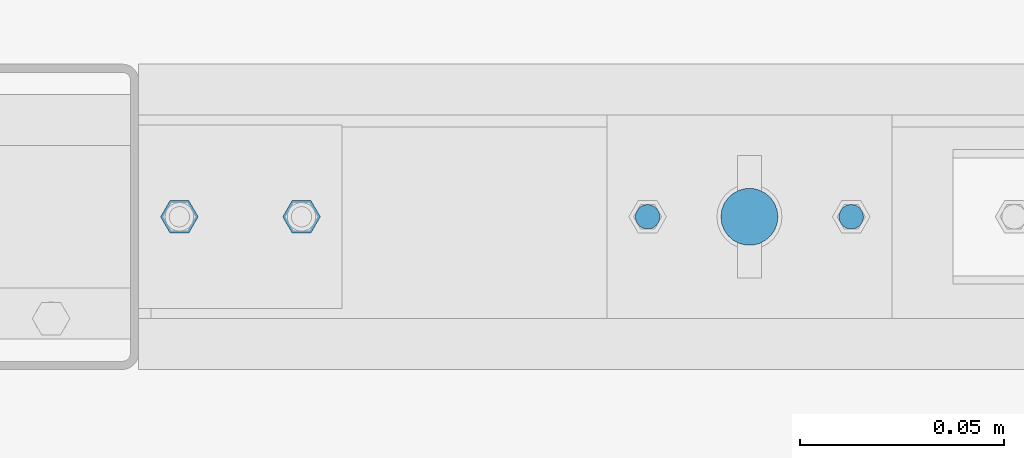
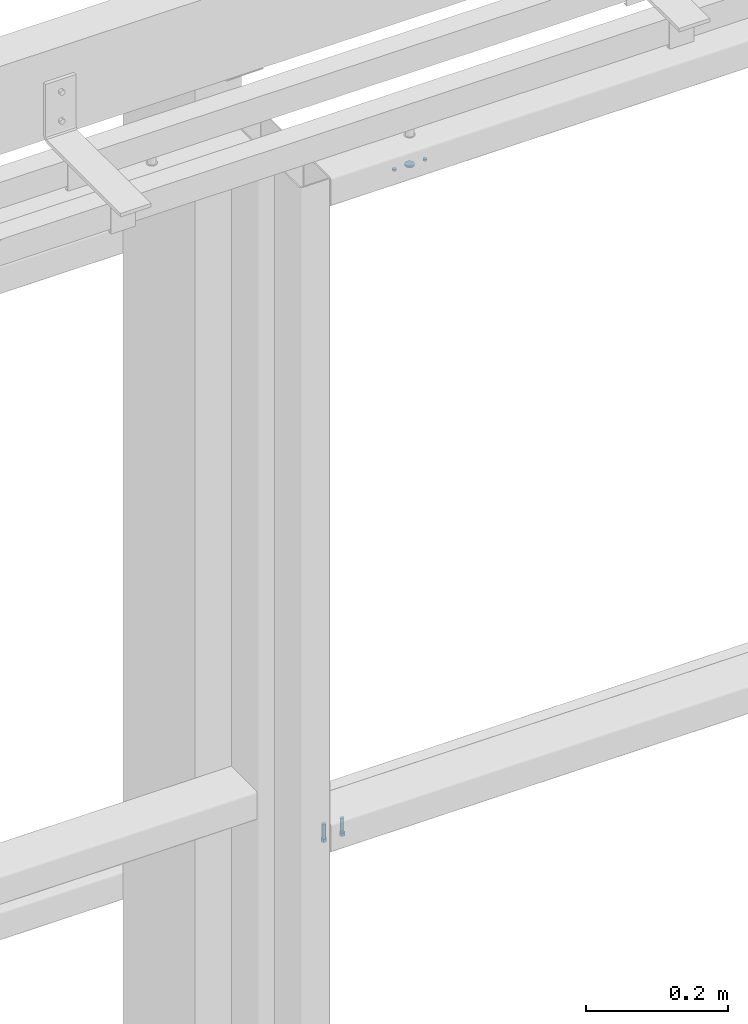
# One storey, part 37 of 91: 4 mechanical fasteners, 2 elements without a shape of their own.
"""IFC2X3 building model written with IfcOpenShell, lengths in millimetres."""

from ifc_helpers import new_model, si_unit, frame, origin_with_axes, origin_2d_with_axis, place, context, subcontext, project, spatial, polyline, circle, outline, extrude, source, transform, mapped, material, type_object, element, aggregate, save


model = new_model("IFC2X3")

# Units and contexts
model_context = context("Model", 3, precision=1e-05, world=origin_with_axes())
body_context = subcontext(model_context, "Body", "Model", "MODEL_VIEW")
ifc_project = project(units=[si_unit("LENGTHUNIT", "METRE", prefix="MILLI"), si_unit("AREAUNIT", "SQUARE_METRE"), si_unit("VOLUMEUNIT", "CUBIC_METRE"), si_unit("MASSUNIT", "GRAM", prefix="KILO"), si_unit("TIMEUNIT", "SECOND"), si_unit("PLANEANGLEUNIT", "RADIAN"), si_unit("SOLIDANGLEUNIT", "STERADIAN"), si_unit("THERMODYNAMICTEMPERATUREUNIT", "DEGREE_CELSIUS"), si_unit("LUMINOUSINTENSITYUNIT", "LUMEN")], contexts=[model_context])

# Site, building, storey
site_placement = place(None, origin_with_axes())
site = spatial("IfcSite", under=ifc_project, at=site_placement, Name="Undefined", CompositionType="ELEMENT")
building_placement = place(site_placement, origin_with_axes())
building = spatial("IfcBuilding", under=site, at=building_placement, Name="Undefined", CompositionType="ELEMENT")
storey_placement = place(building_placement, origin_with_axes())
storey = spatial("IfcBuildingStorey", under=building, at=storey_placement, Name="Undefined", CompositionType="ELEMENT", Elevation=0.0)

# Assembly, mechanical fasteners
assembly_1_placement = place(storey_placement, origin_with_axes())
assembly_1 = element("IfcElementAssembly", 1, at=assembly_1_placement, inside=storey, Name="ROD", AssemblyPlace="NOTDEFINED", PredefinedType="RIGID_FRAME")
ifc_material_1 = material(Name="8.8S")
discrete_accessory_type = type_object("IfcDiscreteAccessoryType", Name="Bolt assembly")
shared_shape_1 = source(origin_with_axes(), body_context, "Body", "SweptSolid", [
    extrude(circle(Radius=3.0, at=origin_2d_with_axis()), frame((0.0, -1.0, 0.0), z_axis=(0.0, 1.0, 0.0), x_axis=(1.0, 0.0, 0.0)), (0.0, 0.0, 1.0), 3.1),
])
mechanical_fastener_1_placement = place(assembly_1_placement, frame((-113558.34, 87590.15, 3324.0), z_axis=(0.0, 1.0, 0.0), x_axis=(-1.0, 0.0, 0.0)))
mechanical_fastener_1 = element("IfcMechanicalFastener", 2, at=mechanical_fastener_1_placement, type_object=discrete_accessory_type, material=ifc_material_1, Name="Bolt assembly", NominalDiameter=6.0, NominalLength=3.0, context=body_context, shape_type="MappedRepresentation", body=[
    mapped(shared_shape_1, transform((0.0, 0.0, 0.0))),
])
mechanical_fastener_2_placement = place(assembly_1_placement, frame((-113608.34, 87590.15, 3324.0), z_axis=(0.0, -1.0, 0.0), x_axis=(1.0, 0.0, 0.0)))
mechanical_fastener_2 = element("IfcMechanicalFastener", 3, at=mechanical_fastener_2_placement, type_object=discrete_accessory_type, material=ifc_material_1, Name="Bolt assembly", NominalDiameter=6.0, NominalLength=3.0, context=body_context, shape_type="MappedRepresentation", body=[
    mapped(shared_shape_1, transform((0.0, 0.0, 0.0))),
])
shared_shape_2 = source(origin_with_axes(), body_context, "Body", "SweptSolid", [
    extrude(circle(Radius=7.0, at=origin_2d_with_axis()), frame((0.0, -1.0, 0.0), z_axis=(0.0, 1.0, 0.0), x_axis=(1.0, 0.0, 0.0)), (0.0, 0.0, 1.0), 3.1),
])
mechanical_fastener_3_placement = place(assembly_1_placement, frame((-113583.34, 87590.15, 3324.0), z_axis=(0.0, -1.0, 0.0), x_axis=(1.0, 0.0, 0.0)))
mechanical_fastener_3 = element("IfcMechanicalFastener", 4, at=mechanical_fastener_3_placement, type_object=discrete_accessory_type, material=ifc_material_1, Name="Bolt assembly", NominalDiameter=12.0, NominalLength=3.0, context=body_context, shape_type="MappedRepresentation", body=[
    mapped(shared_shape_2, transform((0.0, 0.0, 0.0))),
])
aggregate(assembly_1, [mechanical_fastener_1, mechanical_fastener_2, mechanical_fastener_3])

# Assembly, mechanical fastener
assembly_2_placement = place(storey_placement, origin_with_axes())
assembly_2 = element("IfcElementAssembly", 5, at=assembly_2_placement, inside=storey, Name="SLIDING DOOR", AssemblyPlace="NOTDEFINED", PredefinedType="RIGID_FRAME")
ifc_material_2 = material(Name="TEK_11TPIM")
shared_shape_3 = source(origin_with_axes(), body_context, "Body", "SweptSolid", [
    extrude(circle(Radius=3.0, at=origin_2d_with_axis()), frame((0.0, 0.103333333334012, 0.0), z_axis=(0.0, 1.0, 0.0), x_axis=(1.0, 0.0, 0.0)), (0.0, 0.0, 1.0), 2.0),
    extrude(circle(Radius=3.0, at=origin_2d_with_axis()), frame((0.0, 2.4, 0.0), z_axis=(0.0, 1.0, 0.0), x_axis=(1.0, 0.0, 0.0)), (0.0, 0.0, 1.0), 1.7),
    extrude(outline(polyline([(4.61880215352, 0.0), (2.30940107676, 4.00000000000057), (-2.30940107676, 4.00000000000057), (-4.61880215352, 0.0), (-2.30940107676, -4.00000000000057), (2.30940107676, -4.00000000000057), (4.61880215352, 0.0)])), frame((0.0, -4.99666666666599, 0.0), z_axis=(0.0, 1.0, 0.0), x_axis=(1.0, 0.0, 0.0)), (0.0, 0.0, 1.0), 5.0),
    extrude(circle(Radius=3.0, at=origin_2d_with_axis()), frame((0.0, 0.0033333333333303, 0.0), z_axis=(0.0, 1.0, 0.0), x_axis=(1.0, 0.0, 0.0)), (0.0, 0.0, 1.0), 25.0),
    extrude(circle(Radius=3.0, at=origin_2d_with_axis()), frame((0.0, 4.10000002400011, 0.0), z_axis=(0.0, 1.0, 0.0), x_axis=(1.0, 0.0, 0.0)), (0.0, 0.0, 1.0), 0.1),
    extrude(outline(polyline([(3.46410161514, 0.0), (1.73205080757, 3.00000000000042), (-1.73205080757, 3.00000000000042), (-3.46410161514, 0.0), (-1.73205080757, -3.00000000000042), (1.73205080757, -3.00000000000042), (3.46410161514, 0.0)])), frame((0.0, 4.20000002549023, 0.0), z_axis=(0.0, 1.0, 0.0), x_axis=(1.0, 0.0, 0.0)), (0.0, 0.0, 1.0), 0.1),
])
mechanical_fastener_4_placement = place(assembly_2_placement, frame((-113723.34, 87590.15, 2211.66), z_axis=(0.0, -1.0, 0.0), x_axis=(1.0, 0.0, 0.0)))
mechanical_fastener_4 = element("IfcMechanicalFastener", 6, at=mechanical_fastener_4_placement, type_object=discrete_accessory_type, material=ifc_material_2, Name="Bolt assembly", NominalDiameter=6.0, NominalLength=25.0, context=body_context, shape_type="MappedRepresentation", body=[
    mapped(shared_shape_3, transform((0.0, 0.0, 0.0))),
    mapped(shared_shape_3, transform((30.0, 0.0, 0.0))),
])
aggregate(assembly_2, [mechanical_fastener_4])

save(model, "model.ifc")
